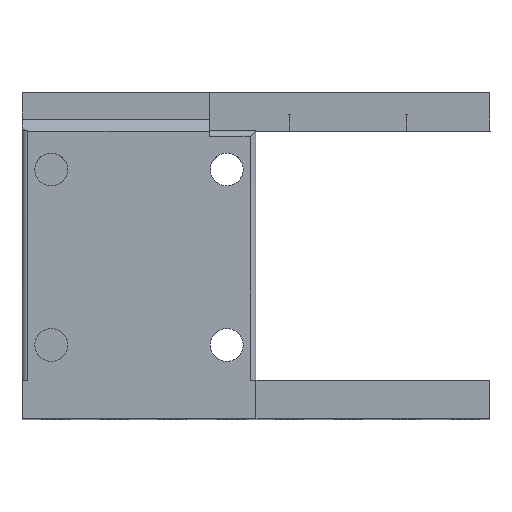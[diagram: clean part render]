
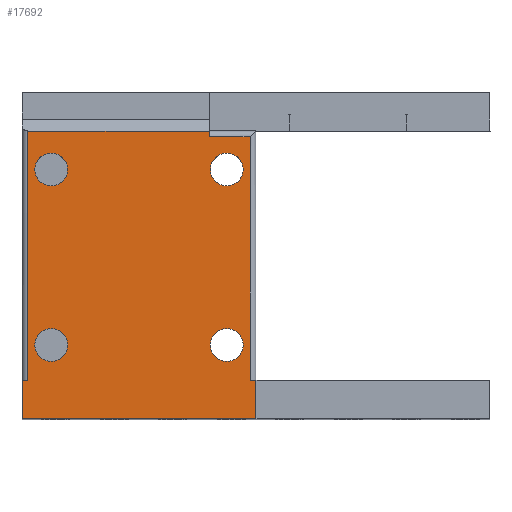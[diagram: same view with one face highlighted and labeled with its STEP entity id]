
A CAD part, top view. The second image highlights one B-rep face of the part: STEP entity #17692.
In plain terms, the highlighted planar face has unit normal (0, 0, 1).
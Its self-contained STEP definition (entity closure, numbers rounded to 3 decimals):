
#481=FACE_BOUND('',#2847,.T.);
#482=FACE_BOUND('',#2848,.T.);
#483=FACE_BOUND('',#2849,.T.);
#484=FACE_BOUND('',#2850,.T.);
#724=CIRCLE('',#18855,1.4);
#725=CIRCLE('',#18856,1.4);
#726=CIRCLE('',#18857,1.4);
#727=CIRCLE('',#18858,1.4);
#1613=FACE_OUTER_BOUND('',#2846,.T.);
#2846=EDGE_LOOP('',(#15951,#15952,#15953,#15954,#15955,#15956,#15957,#15958,
#15959,#15960));
#2847=EDGE_LOOP('',(#15961));
#2848=EDGE_LOOP('',(#15962));
#2849=EDGE_LOOP('',(#15963));
#2850=EDGE_LOOP('',(#15964));
#4965=LINE('',#28077,#7127);
#4974=LINE('',#28096,#7136);
#4992=LINE('',#28150,#7154);
#4998=LINE('',#28162,#7160);
#5007=LINE('',#28178,#7169);
#5010=LINE('',#28183,#7172);
#5012=LINE('',#28219,#7174);
#5014=LINE('',#28226,#7176);
#5015=LINE('',#28229,#7177);
#5016=LINE('',#28230,#7178);
#7127=VECTOR('',#23138,10.);
#7136=VECTOR('',#23155,10.);
#7154=VECTOR('',#23203,10.);
#7160=VECTOR('',#23215,10.);
#7169=VECTOR('',#23228,10.);
#7172=VECTOR('',#23233,10.);
#7174=VECTOR('',#23275,10.);
#7176=VECTOR('',#23285,10.);
#7177=VECTOR('',#23290,10.);
#7178=VECTOR('',#23291,10.);
#8740=VERTEX_POINT('',#28074);
#8741=VERTEX_POINT('',#28076);
#8745=VERTEX_POINT('',#28091);
#8747=VERTEX_POINT('',#28094);
#8767=VERTEX_POINT('',#28147);
#8768=VERTEX_POINT('',#28149);
#8771=VERTEX_POINT('',#28161);
#8776=VERTEX_POINT('',#28176);
#8791=VERTEX_POINT('',#28218);
#8792=VERTEX_POINT('',#28225);
#8793=VERTEX_POINT('',#28231);
#8794=VERTEX_POINT('',#28233);
#8795=VERTEX_POINT('',#28235);
#8796=VERTEX_POINT('',#28237);
#11111=EDGE_CURVE('',#8740,#8741,#4965,.T.);
#11121=EDGE_CURVE('',#8747,#8745,#4974,.T.);
#11148=EDGE_CURVE('',#8767,#8768,#4992,.T.);
#11155=EDGE_CURVE('',#8741,#8771,#4998,.T.);
#11165=EDGE_CURVE('',#8776,#8747,#5007,.T.);
#11168=EDGE_CURVE('',#8740,#8745,#5010,.T.);
#11185=EDGE_CURVE('',#8771,#8791,#5012,.T.);
#11188=EDGE_CURVE('',#8792,#8791,#5014,.T.);
#11190=EDGE_CURVE('',#8768,#8776,#5015,.T.);
#11191=EDGE_CURVE('',#8792,#8767,#5016,.T.);
#11192=EDGE_CURVE('',#8793,#8793,#724,.T.);
#11193=EDGE_CURVE('',#8794,#8794,#725,.T.);
#11194=EDGE_CURVE('',#8795,#8795,#726,.T.);
#11195=EDGE_CURVE('',#8796,#8796,#727,.T.);
#15951=ORIENTED_EDGE('',*,*,#11168,.T.);
#15952=ORIENTED_EDGE('',*,*,#11121,.F.);
#15953=ORIENTED_EDGE('',*,*,#11165,.F.);
#15954=ORIENTED_EDGE('',*,*,#11190,.F.);
#15955=ORIENTED_EDGE('',*,*,#11148,.F.);
#15956=ORIENTED_EDGE('',*,*,#11191,.F.);
#15957=ORIENTED_EDGE('',*,*,#11188,.T.);
#15958=ORIENTED_EDGE('',*,*,#11185,.F.);
#15959=ORIENTED_EDGE('',*,*,#11155,.F.);
#15960=ORIENTED_EDGE('',*,*,#11111,.F.);
#15961=ORIENTED_EDGE('',*,*,#11192,.T.);
#15962=ORIENTED_EDGE('',*,*,#11193,.T.);
#15963=ORIENTED_EDGE('',*,*,#11194,.T.);
#15964=ORIENTED_EDGE('',*,*,#11195,.T.);
#16802=PLANE('',#18854);
#17692=ADVANCED_FACE('',(#1613,#481,#482,#483,#484),#16802,.T.);
#18854=AXIS2_PLACEMENT_3D('',#28228,#23288,#23289);
#18855=AXIS2_PLACEMENT_3D('',#28232,#23292,#23293);
#18856=AXIS2_PLACEMENT_3D('',#28234,#23294,#23295);
#18857=AXIS2_PLACEMENT_3D('',#28236,#23296,#23297);
#18858=AXIS2_PLACEMENT_3D('',#28238,#23298,#23299);
#23138=DIRECTION('',(-1.,0.,0.));
#23155=DIRECTION('',(1.,0.,0.));
#23203=DIRECTION('',(0.,-1.,0.));
#23215=DIRECTION('',(0.,1.,0.));
#23228=DIRECTION('',(0.,-1.,0.));
#23233=DIRECTION('',(0.,1.,0.));
#23275=DIRECTION('',(1.,0.,0.));
#23285=DIRECTION('',(0.,-1.,0.));
#23288=DIRECTION('center_axis',(0.,0.,1.));
#23289=DIRECTION('ref_axis',(1.,0.,0.));
#23290=DIRECTION('',(1.,0.,0.));
#23291=DIRECTION('',(1.,0.,0.));
#23292=DIRECTION('center_axis',(0.,0.,-1.));
#23293=DIRECTION('ref_axis',(1.,0.,0.));
#23294=DIRECTION('center_axis',(0.,0.,-1.));
#23295=DIRECTION('ref_axis',(1.,0.,0.));
#23296=DIRECTION('center_axis',(0.,0.,-1.));
#23297=DIRECTION('ref_axis',(1.,0.,0.));
#23298=DIRECTION('center_axis',(0.,0.,-1.));
#23299=DIRECTION('ref_axis',(1.,0.,0.));
#28074=CARTESIAN_POINT('',(20.,-3.2,3.587));
#28076=CARTESIAN_POINT('',(0.,-3.2,3.587));
#28077=CARTESIAN_POINT('',(10.125,-3.2,3.587));
#28091=CARTESIAN_POINT('',(20.,0.1,3.587));
#28094=CARTESIAN_POINT('',(19.5,0.1,3.587));
#28096=CARTESIAN_POINT('',(15.125,0.1,3.587));
#28147=CARTESIAN_POINT('',(16.,21.393,3.587));
#28149=CARTESIAN_POINT('',(16.,20.9,3.587));
#28150=CARTESIAN_POINT('',(16.,15.6,3.587));
#28161=CARTESIAN_POINT('',(0.,0.1,3.587));
#28162=CARTESIAN_POINT('',(0.,11.85,3.587));
#28176=CARTESIAN_POINT('',(19.5,20.9,3.587));
#28178=CARTESIAN_POINT('',(19.5,-0.9,3.587));
#28183=CARTESIAN_POINT('',(20.,4.85,3.587));
#28218=CARTESIAN_POINT('',(0.5,0.1,3.587));
#28219=CARTESIAN_POINT('',(5.25,0.1,3.587));
#28225=CARTESIAN_POINT('',(0.5,21.393,3.587));
#28226=CARTESIAN_POINT('',(0.5,-0.9,3.587));
#28228=CARTESIAN_POINT('Origin',(10.,10.6,3.587));
#28229=CARTESIAN_POINT('',(15.,20.9,3.587));
#28230=CARTESIAN_POINT('',(9.,21.393,3.587));
#28231=CARTESIAN_POINT('',(1.1,3.1,3.587));
#28232=CARTESIAN_POINT('Origin',(2.5,3.1,3.587));
#28233=CARTESIAN_POINT('',(16.1,18.1,3.587));
#28234=CARTESIAN_POINT('Origin',(17.5,18.1,3.587));
#28235=CARTESIAN_POINT('',(16.1,3.1,3.587));
#28236=CARTESIAN_POINT('Origin',(17.5,3.1,3.587));
#28237=CARTESIAN_POINT('',(1.1,18.1,3.587));
#28238=CARTESIAN_POINT('Origin',(2.5,18.1,3.587));
